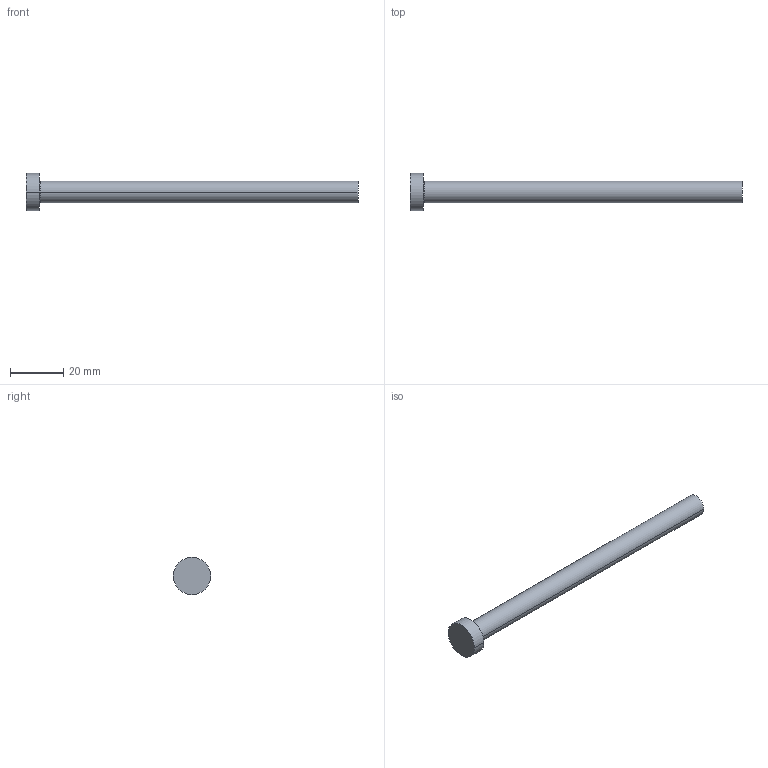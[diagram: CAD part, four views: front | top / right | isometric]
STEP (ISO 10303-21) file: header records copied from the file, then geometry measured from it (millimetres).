
FILE_DESCRIPTION (( 'STEP AP214' ), '1' );
FILE_NAME ('A-8,2x125.STEP', '2020-05-29T15:47:58', ( 'August' ), ( '' ), 'SwSTEP 2.0', 'SolidWorks 2018', '' );
FILE_SCHEMA (( 'AUTOMOTIVE_DESIGN' ));
Length unit declared in the file: millimetre
Products named in the file (1): A-8,2x125
Bounding box: 125 x 14 x 14 mm (x, y, z)
Volume: 7108.3 mm3; surface area: 3613.7 mm2
Topology: 1 solids, 1 shells, 9 faces, 16 edges, 10 vertices
Faces by surface type: cylinder 4, plane 3, torus 2
Entity records: 260 total; most frequent: DIRECTION 48, CARTESIAN_POINT 36, ORIENTED_EDGE 32, AXIS2_PLACEMENT_3D 22, EDGE_CURVE 16, CIRCLE 12, VERTEX_POINT 10, EDGE_LOOP 10
